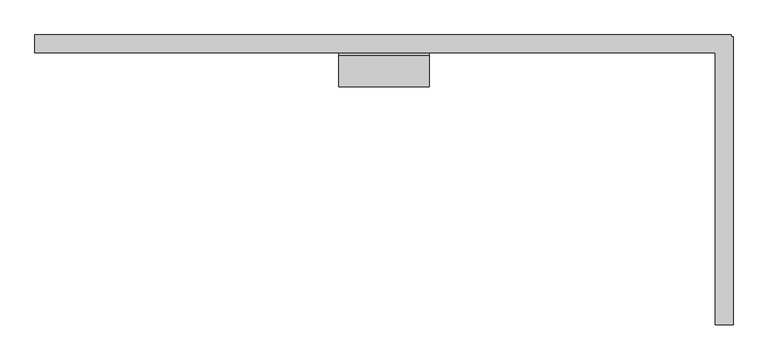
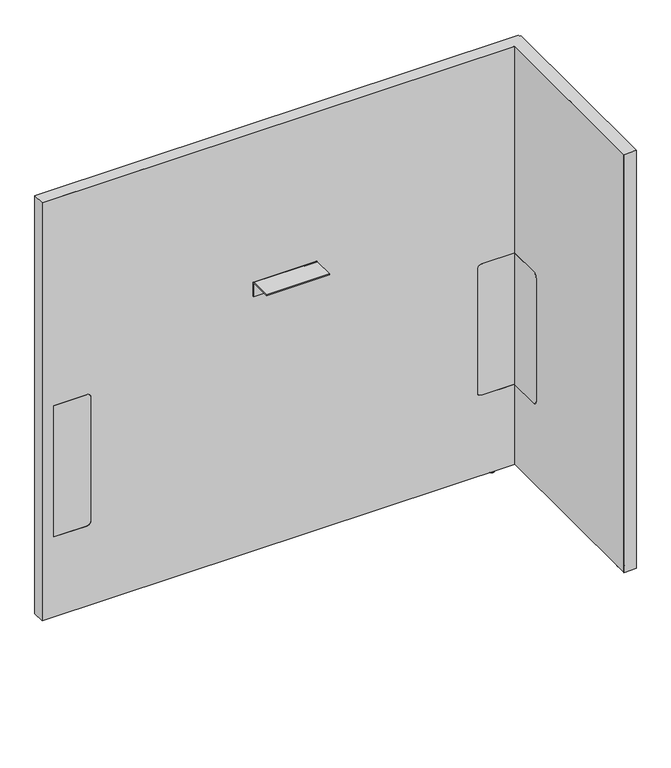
"""IFC4 building model written with IfcOpenShell, lengths in millimetres: furniture geometry, Steelcase - Answer Solution - Boundary Screen - L Return - Single Sided : 42H x 45W."""

from ifc_helpers import new_model, si_unit, point, frame, frame_2d, origin, place, context, project, spatial, polyline, circle_curve, ellipse_curve, trimmed, segment, composite_curve, outline, extrude, faceted_brep, source, transform, mapped, element, save
from ifc_brep_helpers import plane_surface, cylinder_surface, revolved_surface, advanced_brep


def furniture_c3d35021(model_context):
    return source(origin(), model_context, "Body", "SolidModel", [
        extrude(outline(composite_curve([segment(polyline([(-109.3501471, 549.6162029), (-29.0550397, 549.6162029), (-29.0550397, 213.7762137), (-109.3501471, 213.7762137)]), True, "CONTINUOUS"), segment(trimmed(circle_curve(frame_2d((-109.3501471, 223.9362137)), 10.16), [point((-109.3501471, 213.7762137))], [point((-119.5101471, 223.9362137))], False, "CARTESIAN"), True, "CONTINUOUS"), segment(polyline([(-119.5101471, 223.9362137), (-119.5101471, 539.4562029)]), True, "CONTINUOUS"), segment(trimmed(circle_curve(frame_2d((-109.3501471, 539.4562029)), 10.16), [point((-119.5101471, 539.4562029))], [point((-109.3501471, 549.6162029))], False, "CARTESIAN"), True, "CONTINUOUS")], self_intersect=False)), frame((1372.8191891, 0.0, 0.0), z_axis=(1.0, 0.0, 0.0), x_axis=(0.0, 1.0, 0.0)), (0.0, 0.0, 1.0), 0.6401544),
        advanced_brep(
        [(1387.6672074, -448.0136072, 0.0), (1394.6216144, -448.0136072, 0.0), (1380.7128003, -448.0136072, 0.0), (1396.0762685, -448.0136072, 1.2700001), (1379.2581463, -448.0136072, 1.2700001), (1396.0762685, -448.0136072, 2.9673238), (1379.2581463, -448.0136072, 2.9673238), (1397.0427877, -448.0136072, 2.9673238), (1378.291627, -448.0136072, 2.9673238), (1397.0427877, -448.0136072, 9.9059849), (1378.291627, -448.0136072, 9.9059849), (1387.6672074, -448.0136072, 9.9059849)],
        [
            (0, 1),
            (1, 2, circle_curve(frame((1387.6672074, -448.0136072, 0.0), z_axis=(0.0, 0.0, -1.0), x_axis=(1.0, 0.0, 0.0)), 6.9544071)),
            (2, 0),
            (2, 1, circle_curve(frame((1387.6672074, -448.0136072, 0.0), z_axis=(0.0, 0.0, -1.0), x_axis=(1.0, 0.0, 0.0)), 6.9544071)),
            (1, 3, circle_curve(frame((1394.7945484, -448.0136072, 1.2700001), z_axis=(0.0, -1.0, 0.0), x_axis=(0.0, 0.0, 1.0)), 1.2817201)),
            (3, 4, circle_curve(frame((1387.6672074, -448.0136072, 1.2700001), z_axis=(0.0, 0.0, -1.0), x_axis=(1.0, 0.0, 0.0)), 8.4090611)),
            (4, 2, circle_curve(frame((1380.5398663, -448.0136072, 1.2700001), z_axis=(0.0, -1.0, 0.0), x_axis=(0.0, 0.0, 1.0)), 1.2817201)),
            (4, 3, circle_curve(frame((1387.6672074, -448.0136072, 1.2700001), z_axis=(0.0, 0.0, -1.0), x_axis=(1.0, 0.0, 0.0)), 8.4090611)),
            (3, 5),
            (5, 6, circle_curve(frame((1387.6672074, -448.0136072, 2.9673238), z_axis=(0.0, 0.0, -1.0), x_axis=(1.0, 0.0, 0.0)), 8.4090611)),
            (6, 4),
            (6, 5, circle_curve(frame((1387.6672074, -448.0136072, 2.9673238), z_axis=(0.0, 0.0, -1.0), x_axis=(1.0, 0.0, 0.0)), 8.4090611)),
            (5, 7),
            (7, 8, circle_curve(frame((1387.6672074, -448.0136072, 2.9673238), z_axis=(0.0, 0.0, -1.0), x_axis=(1.0, 0.0, 0.0)), 9.3755804)),
            (8, 6),
            (8, 7, circle_curve(frame((1387.6672074, -448.0136072, 2.9673238), z_axis=(0.0, 0.0, -1.0), x_axis=(1.0, 0.0, 0.0)), 9.3755804)),
            (7, 9),
            (9, 10, circle_curve(frame((1387.6672074, -448.0136072, 9.9059849), z_axis=(0.0, 0.0, -1.0), x_axis=(1.0, 0.0, 0.0)), 9.3755804)),
            (10, 8),
            (10, 9, circle_curve(frame((1387.6672074, -448.0136072, 9.9059849), z_axis=(0.0, 0.0, -1.0), x_axis=(1.0, 0.0, 0.0)), 9.3755804)),
            (9, 11),
            (11, 10),
        ],
        [
            plane_surface(frame((1387.6672074, -448.0136072, 0.0), z_axis=(0.0, 0.0, -1.0), x_axis=(1.0, 0.0, 0.0))),
            revolved_surface(trimmed(ellipse_curve(frame((1394.7945484, -448.0136072, 1.2700001), z_axis=(0.0, 1.0, 0.0), x_axis=(0.0, 0.0, 1.0)), 1.2817201, 1.2817201), [point((1396.0762685, -448.0136072, 1.2700001))], [point((1394.6216144, -448.0136072, 0.0))], True, "CARTESIAN"), (1387.6672074, -448.0136072, 9.9059849), (0.0, 0.0, -1.0)),
            cylinder_surface(frame((1387.6672074, -448.0136072, 9.9059849), z_axis=(0.0, 0.0, -1.0), x_axis=(1.0, 0.0, 0.0)), 8.4090611),
            plane_surface(frame((1387.6672074, -448.0136072, 2.9673238), z_axis=(0.0, 0.0, -1.0), x_axis=(1.0, 0.0, 0.0))),
            cylinder_surface(frame((1387.6672074, -448.0136072, 9.9059849), z_axis=(0.0, 0.0, -1.0), x_axis=(1.0, 0.0, 0.0)), 9.3755804),
            plane_surface(frame((1387.6672074, -448.0136072, 9.9059849), z_axis=(0.0, 0.0, 1.0), x_axis=(1.0, 0.0, 0.0))),
        ],
        [
            (0, [[1, 2, 3]]),
            (0, [[-3, 4, -1]]),
            (1, [[-2, 5, 6, 7]]),
            (1, [[-4, -7, 8, -5]]),
            (2, [[-6, 9, 10, 11]]),
            (2, [[-8, -11, 12, -9]]),
            (3, [[-10, 13, 14, 15]]),
            (3, [[-12, -15, 16, -13]]),
            (4, [[-14, 17, 18, 19]]),
            (4, [[-16, -19, 20, -17]]),
            (5, [[-18, 21, 22]]),
            (5, [[-20, -22, -21]]),
        ],
    ),
        faceted_brep([(1399.2531179, 0.0, 1077.722), (1399.2531179, 0.0, 9.9059849), (1398.2621491, 0.0, 9.9059849), (1398.2621491, 0.0, 1076.742118), (230.8097779, 0.0, 1076.742118), (230.8097779, 0.0, 9.9059849), (229.8191891, 0.0, 9.9059849), (229.8191891, 0.0, 1077.722), (229.8191891, -29.6898332, 1077.722), (229.8191891, -29.6898332, 9.9059849), (230.8097779, -29.6898332, 9.9059849), (230.8097779, -29.6898332, 1076.742118), (1372.8191891, -29.6898332, 1076.742118), (1372.8191891, -29.6898332, 1077.722), (1398.2621491, -29.6898332, 1076.742118), (1398.2621491, -29.6898332, 9.9059849), (1399.2531179, -29.6898332, 9.9059849), (1399.2531179, -29.6898332, 1076.742118), (1399.2531179, -3.2625916, 1077.722), (1399.2531179, -3.2625916, 9.9059849), (1399.2531179, -4.252647, 9.9059849), (1399.2531179, -4.252647, 1076.742118), (1402.5152256, -3.2625916, 9.9059849), (1402.5152256, -4.252647, 9.9059849), (1398.2621491, -4.252647, 9.9059849), (1372.8191891, -4.252647, 9.9059849), (1372.8191891, -3.2625916, 9.9059849), (1398.2621491, -3.2625916, 9.9059849), (1372.8191891, -486.8898332, 1077.722), (1402.5152256, -486.8898332, 1077.722), (1402.5152256, -3.2625916, 1077.722), (1398.2621491, -3.2625916, 1076.742118), (1398.2621491, -4.252647, 1076.742118), (1372.8191891, -3.2625916, 1076.742118), (1372.8191891, -4.252647, 1076.742118), (1402.5152256, -4.252647, 1076.742118), (1402.5152256, -485.899196, 1076.742118), (1372.8191891, -485.899196, 1076.742118), (1372.8191891, -485.899196, 9.9059849), (1372.8191891, -486.8898332, 9.9059849), (1402.5152256, -486.8898332, 9.9059849), (1402.5152256, -485.899196, 9.9059849)], [[[0, 1, 2, 3, 4, 5, 6, 7]], [[8, 9, 10, 11, 12, 13]], [[14, 15, 16, 17]], [[1, 0, 18, 19]], [[17, 16, 20, 21]], [[2, 1, 19, 22, 23, 20, 16, 15, 24, 25, 26, 27]], [[7, 6, 9, 8]], [[0, 7, 8, 13, 28, 29, 30, 18]], [[3, 2, 27, 31]], [[15, 14, 32, 24]], [[4, 3, 31, 33, 34, 32, 14, 17, 21, 35, 36, 37, 12, 11]], [[5, 4, 11, 10]], [[6, 5, 10, 9]], [[26, 25, 34, 33]], [[37, 38, 39, 28, 13, 12]], [[29, 40, 41, 36, 35, 23, 22, 30]], [[27, 26, 33, 31]], [[30, 22, 19, 18]], [[34, 25, 24, 32]], [[23, 35, 21, 20]], [[38, 37, 36, 41]], [[39, 38, 41, 40]], [[28, 39, 40, 29]]]),
        extrude(outline(composite_curve([segment(polyline([(-86.8398151, 696.4680019), (-86.8398151, 698.5), (-34.9450855, 698.5)]), True, "CONTINUOUS"), segment(trimmed(circle_curve(frame_2d((-34.9450855, 693.2447477)), 5.2552523), [point((-34.9450855, 698.5))], [point((-29.6898332, 693.2447477))], False, "CARTESIAN"), True, "CONTINUOUS"), segment(polyline([(-29.6898332, 693.2447477), (-29.6898332, 660.4), (-31.7218162, 660.4), (-31.7218162, 693.0058743)]), True, "CONTINUOUS"), segment(trimmed(circle_curve(frame_2d((-35.1839438, 693.0058743)), 3.4621276), [point((-31.7218162, 693.0058743))], [point((-35.1839438, 696.4680019))], True, "CARTESIAN"), True, "CONTINUOUS"), segment(polyline([(-35.1839438, 696.4680019), (-86.8398151, 696.4680019)]), True, "CONTINUOUS")], self_intersect=False)), frame((739.9685899, 0.0, 0.0), z_axis=(1.0, 0.0, 0.0), x_axis=(0.0, 1.0, 0.0)), (0.0, 0.0, 1.0), 152.4000969),
        advanced_brep(
        [(1325.3246853, -23.7588726, 9.9059849), (1325.3246853, -5.9309607, 9.9059849), (1325.3246853, -14.8449166, 9.9059849), (1325.3246853, -23.7588726, 2.9673238), (1325.3246853, -5.9309607, 2.9673238), (1325.3246853, -22.7915354, 2.9673238), (1325.3246853, -6.8982978, 2.9673238), (1325.3246853, -22.7915354, 1.6569081), (1325.3246853, -6.8982978, 1.6569081), (1325.3246853, -21.1346274, 0.0), (1325.3246853, -8.5552059, 0.0), (1325.3246853, -14.8449166, 0.0)],
        [
            (0, 1, circle_curve(frame((1325.3246853, -14.8449166, 9.9059849), z_axis=(0.0, 0.0, 1.0), x_axis=(0.0, 1.0, 0.0)), 8.913956)),
            (1, 2),
            (2, 0),
            (1, 0, circle_curve(frame((1325.3246853, -14.8449166, 9.9059849), z_axis=(0.0, 0.0, 1.0), x_axis=(0.0, 1.0, 0.0)), 8.913956)),
            (3, 4, circle_curve(frame((1325.3246853, -14.8449166, 2.9673238), z_axis=(0.0, 0.0, 1.0), x_axis=(0.0, 1.0, 0.0)), 8.913956)),
            (4, 1),
            (0, 3),
            (4, 3, circle_curve(frame((1325.3246853, -14.8449166, 2.9673238), z_axis=(0.0, 0.0, 1.0), x_axis=(0.0, 1.0, 0.0)), 8.913956)),
            (5, 6, circle_curve(frame((1325.3246853, -14.8449166, 2.9673238), z_axis=(0.0, 0.0, 1.0), x_axis=(0.0, 1.0, 0.0)), 7.9466188)),
            (6, 4),
            (3, 5),
            (6, 5, circle_curve(frame((1325.3246853, -14.8449166, 2.9673238), z_axis=(0.0, 0.0, 1.0), x_axis=(0.0, 1.0, 0.0)), 7.9466188)),
            (7, 8, circle_curve(frame((1325.3246853, -14.8449166, 1.6569081), z_axis=(0.0, 0.0, 1.0), x_axis=(0.0, 1.0, 0.0)), 7.9466188)),
            (8, 6),
            (5, 7),
            (8, 7, circle_curve(frame((1325.3246853, -14.8449166, 1.6569081), z_axis=(0.0, 0.0, 1.0), x_axis=(0.0, 1.0, 0.0)), 7.9466188)),
            (9, 10, circle_curve(frame((1325.3246853, -14.8449166, 0.0), z_axis=(0.0, 0.0, 1.0), x_axis=(0.0, 1.0, 0.0)), 6.2897107)),
            (10, 8, circle_curve(frame((1325.3246853, -8.5552059, 1.6569081), z_axis=(1.0, 0.0, 0.0), x_axis=(0.0, 1.0, 0.0)), 1.6569081)),
            (7, 9, circle_curve(frame((1325.3246853, -21.1346274, 1.6569081), z_axis=(1.0, 0.0, 0.0), x_axis=(0.0, -1.0, 0.0)), 1.6569081)),
            (10, 9, circle_curve(frame((1325.3246853, -14.8449166, 0.0), z_axis=(0.0, 0.0, 1.0), x_axis=(0.0, 1.0, 0.0)), 6.2897107)),
            (11, 10),
            (9, 11),
        ],
        [
            plane_surface(frame((1325.3246853, -14.8449166, 9.9059849), z_axis=(0.0, 0.0, 1.0), x_axis=(0.0, 1.0, 0.0))),
            cylinder_surface(frame((1325.3246853, -14.8449166, 9.9059849), z_axis=(0.0, 0.0, -1.0), x_axis=(0.0, 1.0, 0.0)), 8.913956),
            plane_surface(frame((1325.3246853, -14.8449166, 2.9673238), z_axis=(0.0, 0.0, -1.0), x_axis=(0.0, 1.0, 0.0))),
            cylinder_surface(frame((1325.3246853, -14.8449166, 9.9059849), z_axis=(0.0, 0.0, -1.0), x_axis=(0.0, 1.0, 0.0)), 7.9466188),
            revolved_surface(trimmed(ellipse_curve(frame((1325.3246853, -8.5552059, 1.6569081), z_axis=(-1.0, 0.0, 0.0), x_axis=(0.0, 1.0, 0.0)), 1.6569081, 1.6569081), [point((1325.3246853, -6.8982978, 1.6569081))], [point((1325.3246853, -8.5552059, 0.0))], True, "CARTESIAN"), (1325.3246853, -14.8449166, 9.9059849), (0.0, 0.0, -1.0)),
            plane_surface(frame((1325.3246853, -14.8449166, 0.0), z_axis=(0.0, 0.0, -1.0), x_axis=(0.0, 1.0, 0.0))),
        ],
        [
            (0, [[1, 2, 3]]),
            (0, [[4, -3, -2]]),
            (1, [[5, 6, -1, 7]]),
            (1, [[8, -7, -4, -6]]),
            (2, [[9, 10, -5, 11]]),
            (2, [[12, -11, -8, -10]]),
            (3, [[13, 14, -9, 15]]),
            (3, [[16, -15, -12, -14]]),
            (4, [[17, 18, -13, 19]]),
            (4, [[20, -19, -16, -18]]),
            (5, [[21, -17, 22]]),
            (5, [[-22, -20, -21]]),
        ],
    ),
        advanced_brep(
        [(230.8097779, 0.0, 1076.742118), (1398.2621491, 0.0, 1076.742118), (1398.2621491, 0.0, 9.9059849), (230.8097779, 0.0, 9.9059849), (347.9483813, -29.0550397, 539.4562029), (337.7883813, -29.0550397, 549.6162029), (258.1344836, -29.0550397, 549.6162029), (258.1344836, -29.0550397, 213.7762137), (337.7883813, -29.0550397, 213.7762137), (347.9483813, -29.0550397, 223.9362137), (1373.4593435, -29.0550397, 213.7762137), (1373.4593435, -29.0550397, 549.6162029), (1292.9109268, -29.0550397, 549.6162029), (1282.7509268, -29.0550397, 539.4562029), (1282.7509268, -29.0550397, 223.9362137), (1292.9109268, -29.0550397, 213.7762137), (230.8097779, -29.6898332, 1076.742118), (230.8097779, -29.6898332, 9.9059849), (1372.8191891, -29.6898332, 9.9059849), (1372.8191891, -29.6898332, 213.7762137), (1292.9109268, -29.6898332, 213.7762137), (1282.7509268, -29.6898332, 223.9362137), (1282.7509268, -29.6898332, 539.4562029), (1292.9109268, -29.6898332, 549.6162029), (1372.8191891, -29.6898332, 549.6162029), (1372.8191891, -29.6898332, 1076.742118), (337.7883813, -29.6898332, 549.6162029), (347.9483813, -29.6898332, 539.4562029), (347.9483813, -29.6898332, 223.9362137), (337.7883813, -29.6898332, 213.7762137), (258.1344836, -29.6898332, 213.7762137), (258.1344836, -29.6898332, 549.6162029), (1398.2621491, -4.252647, 9.9059849), (1402.5152256, -4.252647, 9.9059849), (1402.5152256, -485.899196, 9.9059849), (1372.8191891, -485.899196, 9.9059849), (1398.2621491, -4.252647, 1076.742118), (1372.8191891, -485.899196, 1076.742118), (1402.5152256, -485.899196, 1076.742118), (1402.5152256, -4.252647, 1076.742118), (1373.4593435, -109.3501471, 549.6162029), (1372.8191891, -109.3501471, 549.6162029), (1373.4593435, -109.3501471, 213.7762137), (1373.4593435, -119.5101471, 223.9362137), (1373.4593435, -119.5101471, 539.4562029), (1372.8191891, -109.3501471, 213.7762137), (1372.8191891, -119.5101471, 539.4562029), (1372.8191891, -119.5101471, 223.9362137)],
        [
            (0, 1),
            (1, 2),
            (2, 3),
            (3, 0),
            (4, 5, circle_curve(frame((337.7883813, -29.0550397, 539.4562029), z_axis=(0.0, -1.0, 0.0), x_axis=(0.0, 0.0, 1.0)), 10.16)),
            (5, 6),
            (6, 7),
            (7, 8),
            (8, 9, circle_curve(frame((337.7883813, -29.0550397, 223.9362137), z_axis=(0.0, -1.0, 0.0), x_axis=(0.0, 0.0, 1.0)), 10.16)),
            (9, 4),
            (10, 11),
            (11, 12),
            (12, 13, circle_curve(frame((1292.9109268, -29.0550397, 539.4562029), z_axis=(0.0, -1.0, 0.0), x_axis=(0.0, 0.0, 1.0)), 10.16)),
            (13, 14),
            (14, 15, circle_curve(frame((1292.9109268, -29.0550397, 223.9362137), z_axis=(0.0, -1.0, 0.0), x_axis=(0.0, 0.0, 1.0)), 10.16)),
            (15, 10),
            (16, 17),
            (17, 18),
            (18, 19),
            (19, 20),
            (20, 21, circle_curve(frame((1292.9109268, -29.6898332, 223.9362137), z_axis=(0.0, 1.0, 0.0), x_axis=(0.0, 0.0, 1.0)), 10.16)),
            (21, 22),
            (22, 23, circle_curve(frame((1292.9109268, -29.6898332, 539.4562029), z_axis=(0.0, 1.0, 0.0), x_axis=(0.0, 0.0, 1.0)), 10.16)),
            (23, 24),
            (24, 25),
            (25, 16),
            (26, 27, circle_curve(frame((337.7883813, -29.6898332, 539.4562029), z_axis=(0.0, 1.0, 0.0), x_axis=(0.0, 0.0, 1.0)), 10.16)),
            (27, 28),
            (28, 29, circle_curve(frame((337.7883813, -29.6898332, 223.9362137), z_axis=(0.0, 1.0, 0.0), x_axis=(0.0, 0.0, 1.0)), 10.16)),
            (29, 30),
            (30, 31),
            (31, 26),
            (16, 0),
            (3, 17),
            (2, 32),
            (32, 33),
            (33, 34),
            (34, 35),
            (35, 18),
            (1, 36),
            (36, 32),
            (25, 37),
            (37, 38),
            (38, 39),
            (39, 36),
            (26, 5),
            (4, 27),
            (9, 28),
            (8, 29),
            (7, 30),
            (6, 31),
            (11, 40),
            (40, 41),
            (41, 24),
            (23, 12),
            (42, 43, circle_curve(frame((1373.4593435, -109.3501471, 223.9362137), z_axis=(-1.0, 0.0, 0.0), x_axis=(0.0, 1.0, 0.0)), 10.16)),
            (43, 44),
            (44, 40, circle_curve(frame((1373.4593435, -109.3501471, 539.4562029), z_axis=(-1.0, 0.0, 0.0), x_axis=(0.0, 1.0, 0.0)), 10.16)),
            (10, 42),
            (15, 20),
            (19, 45),
            (45, 42),
            (14, 21),
            (13, 22),
            (35, 37),
            (41, 46, circle_curve(frame((1372.8191891, -109.3501471, 539.4562029), z_axis=(1.0, 0.0, 0.0), x_axis=(0.0, 1.0, 0.0)), 10.16)),
            (46, 47),
            (47, 45, circle_curve(frame((1372.8191891, -109.3501471, 223.9362137), z_axis=(1.0, 0.0, 0.0), x_axis=(0.0, 1.0, 0.0)), 10.16)),
            (38, 34),
            (33, 39),
            (44, 46),
            (43, 47),
        ],
        [
            plane_surface(frame((347.9483813, 0.0, 549.6162029), z_axis=(0.0, 1.0, 0.0), x_axis=(0.0, 0.0, -1.0))),
            plane_surface(frame((347.9483813, -29.0550397, 549.6162029), z_axis=(0.0, -1.0, 0.0), x_axis=(0.0, 0.0, 1.0))),
            plane_surface(frame((1398.2621491, -29.6898332, 1076.742118), z_axis=(0.0, -1.0, 0.0), x_axis=(-1.0, 0.0, 0.0))),
            plane_surface(frame((230.8097779, 0.0, 9.9059849), z_axis=(-1.0, 0.0, 0.0), x_axis=(0.0, -1.0, 0.0))),
            plane_surface(frame((1398.2621491, 0.0, 9.9059849), z_axis=(0.0, 0.0, -1.0), x_axis=(0.0, -1.0, 0.0))),
            plane_surface(frame((1398.2621491, 0.0, 1076.742118), z_axis=(1.0, 0.0, 0.0), x_axis=(0.0, -1.0, 0.0))),
            plane_surface(frame((230.8097779, 0.0, 1076.742118), z_axis=(0.0, 0.0, 1.0), x_axis=(0.0, -1.0, 0.0))),
            revolved_surface(polyline([(337.7883813, -29.6898332, 549.6162029), (337.7883813, -29.0550397, 549.6162029)]), (337.7883813, -29.6898332, 539.4562029), (0.0, -1.0, 0.0)),
            plane_surface(frame((347.9483813, 0.0, 223.9362137), z_axis=(-1.0, 0.0, 0.0), x_axis=(0.0, -1.0, 0.0))),
            revolved_surface(polyline([(337.7883813, -29.6898332, 234.0962137), (337.7883813, -29.0550397, 234.0962137)]), (337.7883813, -29.6898332, 223.9362137), (0.0, -1.0, 0.0)),
            plane_surface(frame((258.1344836, 0.0, 213.7762137), z_axis=(0.0, 0.0, 1.0), x_axis=(0.0, -1.0, 0.0))),
            plane_surface(frame((258.1344836, 0.0, 549.6162029), z_axis=(1.0, 0.0, 0.0), x_axis=(0.0, -1.0, 0.0))),
            plane_surface(frame((337.7883813, 0.0, 549.6162029), z_axis=(0.0, 0.0, -1.0), x_axis=(0.0, -1.0, 0.0))),
            plane_surface(frame((1373.4593435, 0.0, 549.6162029), z_axis=(0.0, 0.0, -1.0), x_axis=(0.0, -1.0, 0.0))),
            plane_surface(frame((1373.4593435, 0.0, 213.7762137), z_axis=(-1.0, 0.0, 0.0), x_axis=(0.0, -1.0, 0.0))),
            plane_surface(frame((1292.9109268, 0.0, 213.7762137), z_axis=(0.0, 0.0, 1.0), x_axis=(0.0, -1.0, 0.0))),
            revolved_surface(polyline([(1292.9109268, -29.6898332, 234.0962137), (1292.9109268, -29.0550397, 234.0962137)]), (1292.9109268, -29.6898332, 223.9362137), (0.0, -1.0, 0.0)),
            plane_surface(frame((1282.7509268, 0.0, 539.4562029), z_axis=(1.0, 0.0, 0.0), x_axis=(0.0, -1.0, 0.0))),
            revolved_surface(polyline([(1292.9109268, -29.6898332, 549.6162029), (1292.9109268, -29.0550397, 549.6162029)]), (1292.9109268, -29.6898332, 539.4562029), (0.0, -1.0, 0.0)),
            plane_surface(frame((1372.8191891, -485.899196, 1076.742118), z_axis=(-1.0, 0.0, 0.0), x_axis=(0.0, 0.0, 1.0))),
            plane_surface(frame((1402.5152256, -485.899196, 1076.742118), z_axis=(1.0, 0.0, 0.0), x_axis=(0.0, 0.0, -1.0))),
            plane_surface(frame((1402.5152256, -4.252647, 9.9059849), z_axis=(0.0, 1.0, 0.0), x_axis=(-1.0, 0.0, 0.0))),
            plane_surface(frame((1402.5152256, -485.899196, 1076.742118), z_axis=(0.0, -1.0, 0.0), x_axis=(-1.0, 0.0, 0.0))),
            revolved_surface(polyline([(1372.8191891, -99.1901471, 539.4562029), (1373.4593435, -99.1901471, 539.4562029)]), (-340.6902705, -109.3501471, 539.4562029), (-1.0, 0.0, 0.0)),
            plane_surface(frame((1402.5152256, -119.5101471, 223.9362137), z_axis=(0.0, 1.0, 0.0), x_axis=(-1.0, 0.0, 0.0))),
            revolved_surface(polyline([(1372.8191891, -99.1901471, 223.9362137), (1373.4593435, -99.1901471, 223.9362137)]), (-340.6902705, -109.3501471, 223.9362137), (-1.0, 0.0, 0.0)),
        ],
        [
            (0, [[1, 2, 3, 4]]),
            (1, [[5, 6, 7, 8, 9, 10]]),
            (1, [[11, 12, 13, 14, 15, 16]]),
            (2, [[17, 18, 19, 20, 21, 22, 23, 24, 25, 26], [27, 28, 29, 30, 31, 32]]),
            (3, [[-17, 33, -4, 34]]),
            (4, [[-3, 35, 36, 37, 38, 39, -18, -34]]),
            (5, [[-2, 40, 41, -35]]),
            (6, [[-1, -33, -26, 42, 43, 44, 45, -40]]),
            (7, [[-27, 46, -5, 47]]),
            (8, [[-28, -47, -10, 48]]),
            (9, [[-29, -48, -9, 49]]),
            (10, [[-30, -49, -8, 50]]),
            (11, [[-31, -50, -7, 51]]),
            (12, [[-32, -51, -6, -46]]),
            (13, [[52, 53, 54, -24, 55, -12]]),
            (14, [[56, 57, 58, -52, -11, 59]]),
            (15, [[-59, -16, 60, -20, 61, 62]]),
            (16, [[-21, -60, -15, 63]]),
            (17, [[-22, -63, -14, 64]]),
            (18, [[-23, -64, -13, -55]]),
            (19, [[65, -42, -25, -54, 66, 67, 68, -61, -19, -39]]),
            (20, [[69, -37, 70, -44]]),
            (21, [[-70, -36, -41, -45]]),
            (22, [[-65, -38, -69, -43]]),
            (23, [[-66, -53, -58, 71]]),
            (24, [[-67, -71, -57, 72]]),
            (25, [[-68, -72, -56, -62]]),
        ],
    ),
        extrude(outline(composite_curve([segment(polyline([(549.6162029, 337.7883813), (549.6162029, 258.1344836), (213.7762137, 258.1344836), (213.7762137, 337.7883813)]), True, "CONTINUOUS"), segment(trimmed(circle_curve(frame_2d((223.9362137, 337.7883813)), 10.16), [point((213.7762137, 337.7883813))], [point((223.9362137, 347.9483813))], False, "CARTESIAN"), True, "CONTINUOUS"), segment(polyline([(223.9362137, 347.9483813), (539.4562029, 347.9483813)]), True, "CONTINUOUS"), segment(trimmed(circle_curve(frame_2d((539.4562029, 337.7883813)), 10.16), [point((539.4562029, 347.9483813))], [point((549.6162029, 337.7883813))], False, "CARTESIAN"), True, "CONTINUOUS")], self_intersect=False)), frame((0.0, -29.6898332, 0.0), z_axis=(0.0, 1.0, 0.0), x_axis=(0.0, 0.0, 1.0)), (0.0, 0.0, 1.0), 0.6347935),
        extrude(outline(composite_curve([segment(trimmed(circle_curve(frame_2d((539.4562029, 1292.9109268)), 10.16), [point((549.6162029, 1292.9109268))], [point((539.4562029, 1282.7509268))], False, "CARTESIAN"), True, "CONTINUOUS"), segment(polyline([(539.4562029, 1282.7509268), (223.9362137, 1282.7509268)]), True, "CONTINUOUS"), segment(trimmed(circle_curve(frame_2d((223.9362137, 1292.9109268)), 10.16), [point((223.9362137, 1282.7509268))], [point((213.7762137, 1292.9109268))], False, "CARTESIAN"), True, "CONTINUOUS"), segment(polyline([(213.7762137, 1292.9109268), (213.7762137, 1372.8191891), (549.6162029, 1372.8191891), (549.6162029, 1292.9109268)]), True, "CONTINUOUS")], self_intersect=False)), frame((0.0, -29.6898332, 0.0), z_axis=(0.0, 1.0, 0.0), x_axis=(0.0, 0.0, 1.0)), (0.0, 0.0, 1.0), 0.6347935),
    ])


if __name__ == "__main__":
    model = new_model("IFC4")
    model_context = context("Model", 3, world=origin())
    ifc_project = project(units=[si_unit("LENGTHUNIT", "METRE", prefix="MILLI")], contexts=[model_context])
    site = spatial("IfcSite", under=ifc_project)
    building = spatial("IfcBuilding", under=site)
    placement = place(None, origin())
    furniture_shape = furniture_c3d35021(model_context)
    element("IfcFurniture", 1, ObjectType="Steelcase - Answer Solution - Boundary Screen - L Return - Single Sided : 42H x 45W", at=placement, inside=building, context=model_context, shape_type="MappedRepresentation", body=[
        mapped(furniture_shape, transform((0.0, 0.0, 0.0), x_axis=(1.0, 0.0, 0.0), y_axis=(0.0, 1.0, 0.0), z_axis=(0.0, 0.0, 1.0))),
    ])
    save(model, "model.ifc")
